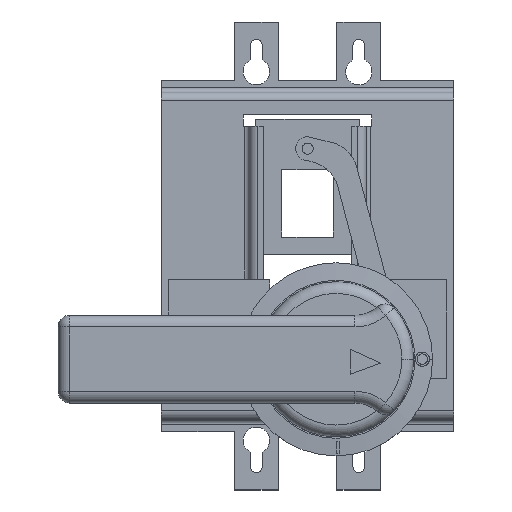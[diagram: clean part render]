
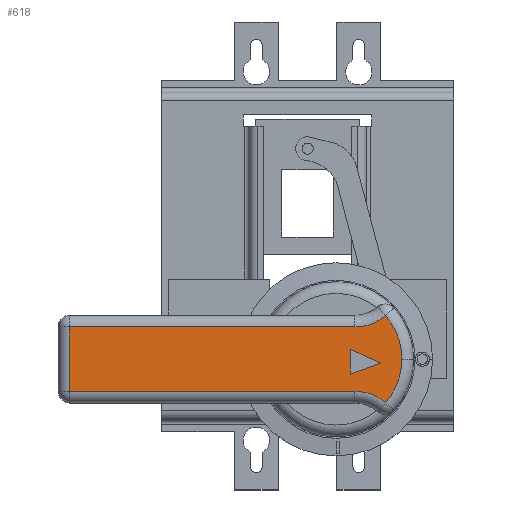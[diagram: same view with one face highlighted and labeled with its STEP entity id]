
A CAD part, top view. The second image highlights one B-rep face of the part: STEP entity #618.
In plain terms, the highlighted planar face has unit normal (0, 0, 1).
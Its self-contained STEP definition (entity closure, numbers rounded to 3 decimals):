
#58 = DIRECTION ( 'NONE',  ( 0., 0., -1. ) ) ;
#201 = LINE ( 'NONE', #5107, #4218 ) ;
#240 = DIRECTION ( 'NONE',  ( 0., 0., 1. ) ) ;
#291 = VERTEX_POINT ( 'NONE', #2031 ) ;
#354 = CIRCLE ( 'NONE', #3498, 22.5 ) ;
#555 = LINE ( 'NONE', #4920, #6262 ) ;
#604 = FACE_BOUND ( 'NONE', #974, .T. ) ;
#618 = ADVANCED_FACE ( 'NONE', ( #3842, #604 ), #6740, .T. ) ;
#696 = CARTESIAN_POINT ( 'NONE',  ( -85.278, -24.597, 194. ) ) ;
#784 = CARTESIAN_POINT ( 'NONE',  ( 9.722, -35.597, 194. ) ) ;
#789 = EDGE_CURVE ( 'NONE', #5306, #291, #2967, .T. ) ;
#803 = VECTOR ( 'NONE', #2655, 1000. ) ;
#890 = CARTESIAN_POINT ( 'NONE',  ( 26.589, -50.489, 194. ) ) ;
#914 = VERTEX_POINT ( 'NONE', #1975 ) ;
#974 = EDGE_LOOP ( 'NONE', ( #4888, #7019, #5456 ) ) ;
#1087 = CARTESIAN_POINT ( 'NONE',  ( 16.179, -24.597, 194. ) ) ;
#1503 = ORIENTED_EDGE ( 'NONE', *, *, #6604, .T. ) ;
#1532 = CARTESIAN_POINT ( 'NONE',  ( 16.179, -46.597, 194. ) ) ;
#1705 = VERTEX_POINT ( 'NONE', #7685 ) ;
#1849 = DIRECTION ( 'NONE',  ( 1., 0., 0. ) ) ;
#1869 = CARTESIAN_POINT ( 'NONE',  ( 9.722, -35.597, 194. ) ) ;
#1975 = CARTESIAN_POINT ( 'NONE',  ( 14.51, -40.746, 194. ) ) ;
#2030 = VERTEX_POINT ( 'NONE', #1087 ) ;
#2031 = CARTESIAN_POINT ( 'NONE',  ( 14.51, -32.209, 194. ) ) ;
#2224 = EDGE_CURVE ( 'NONE', #2030, #3934, #2352, .T. ) ;
#2231 = LINE ( 'NONE', #5912, #5413 ) ;
#2304 = VERTEX_POINT ( 'NONE', #6363 ) ;
#2352 = LINE ( 'NONE', #696, #5736 ) ;
#2655 = DIRECTION ( 'NONE',  ( -0.908, 0.42, 0. ) ) ;
#2677 = DIRECTION ( 'NONE',  ( 0., -1., 0. ) ) ;
#2833 = DIRECTION ( 'NONE',  ( 1., 0., 0. ) ) ;
#2851 = EDGE_CURVE ( 'NONE', #5081, #6376, #5287, .T. ) ;
#2967 = LINE ( 'NONE', #5117, #803 ) ;
#3139 = DIRECTION ( 'NONE',  ( 0.938, 0.346, 0. ) ) ;
#3321 = EDGE_CURVE ( 'NONE', #1705, #2304, #354, .T. ) ;
#3356 = DIRECTION ( 'NONE',  ( 1., 0., 0. ) ) ;
#3412 = EDGE_CURVE ( 'NONE', #291, #914, #2231, .T. ) ;
#3498 = AXIS2_PLACEMENT_3D ( 'NONE', #784, #6999, #3356 ) ;
#3607 = CARTESIAN_POINT ( 'NONE',  ( 16.179, -62.469, 194. ) ) ;
#3842 = FACE_OUTER_BOUND ( 'NONE', #7454, .T. ) ;
#3934 = VERTEX_POINT ( 'NONE', #6985 ) ;
#4061 = DIRECTION ( 'NONE',  ( 0., -1., 0. ) ) ;
#4168 = LINE ( 'NONE', #5704, #5316 ) ;
#4186 = DIRECTION ( 'NONE',  ( 1., 0., 0. ) ) ;
#4218 = VECTOR ( 'NONE', #2677, 1000. ) ;
#4647 = CIRCLE ( 'NONE', #6801, 22.5 ) ;
#4722 = VERTEX_POINT ( 'NONE', #6640 ) ;
#4814 = ORIENTED_EDGE ( 'NONE', *, *, #3321, .T. ) ;
#4821 = DIRECTION ( 'NONE',  ( 0., 0., -1. ) ) ;
#4838 = EDGE_CURVE ( 'NONE', #2304, #2030, #5300, .T. ) ;
#4888 = ORIENTED_EDGE ( 'NONE', *, *, #789, .F. ) ;
#4920 = CARTESIAN_POINT ( 'NONE',  ( 14.51, -40.746, 194. ) ) ;
#4972 = DIRECTION ( 'NONE',  ( 1., 0., 0. ) ) ;
#5050 = DIRECTION ( 'NONE',  ( -1., 0., 0. ) ) ;
#5081 = VERTEX_POINT ( 'NONE', #1532 ) ;
#5107 = CARTESIAN_POINT ( 'NONE',  ( -81.278, -50.597, 194. ) ) ;
#5117 = CARTESIAN_POINT ( 'NONE',  ( 24.78, -36.96, 194. ) ) ;
#5287 = CIRCLE ( 'NONE', #6818, 15.871 ) ;
#5300 = CIRCLE ( 'NONE', #6989, 15.871 ) ;
#5306 = VERTEX_POINT ( 'NONE', #6062 ) ;
#5316 = VECTOR ( 'NONE', #6841, 1000. ) ;
#5413 = VECTOR ( 'NONE', #4061, 1000. ) ;
#5456 = ORIENTED_EDGE ( 'NONE', *, *, #3412, .F. ) ;
#5704 = CARTESIAN_POINT ( 'NONE',  ( 16.179, -46.597, 194. ) ) ;
#5736 = VECTOR ( 'NONE', #5050, 1000. ) ;
#5832 = ORIENTED_EDGE ( 'NONE', *, *, #2851, .T. ) ;
#5912 = CARTESIAN_POINT ( 'NONE',  ( 14.51, -32.209, 194. ) ) ;
#6062 = CARTESIAN_POINT ( 'NONE',  ( 24.78, -36.96, 194. ) ) ;
#6225 = DIRECTION ( 'NONE',  ( 0., 0., 1. ) ) ;
#6262 = VECTOR ( 'NONE', #3139, 1000. ) ;
#6313 = EDGE_CURVE ( 'NONE', #6376, #1705, #4647, .T. ) ;
#6363 = CARTESIAN_POINT ( 'NONE',  ( 26.589, -20.706, 194. ) ) ;
#6376 = VERTEX_POINT ( 'NONE', #890 ) ;
#6394 = CARTESIAN_POINT ( 'NONE',  ( 9.722, -35.597, 194. ) ) ;
#6561 = ORIENTED_EDGE ( 'NONE', *, *, #6313, .T. ) ;
#6604 = EDGE_CURVE ( 'NONE', #4722, #5081, #4168, .T. ) ;
#6640 = CARTESIAN_POINT ( 'NONE',  ( -81.278, -46.597, 194. ) ) ;
#6740 = PLANE ( 'NONE',  #6765 ) ;
#6765 = AXIS2_PLACEMENT_3D ( 'NONE', #1869, #6225, #1849 ) ;
#6801 = AXIS2_PLACEMENT_3D ( 'NONE', #6394, #240, #2833 ) ;
#6806 = CARTESIAN_POINT ( 'NONE',  ( 16.179, -8.726, 194. ) ) ;
#6814 = ORIENTED_EDGE ( 'NONE', *, *, #2224, .T. ) ;
#6818 = AXIS2_PLACEMENT_3D ( 'NONE', #3607, #4821, #4186 ) ;
#6841 = DIRECTION ( 'NONE',  ( 1., 0., 0. ) ) ;
#6985 = CARTESIAN_POINT ( 'NONE',  ( -81.278, -24.597, 194. ) ) ;
#6989 = AXIS2_PLACEMENT_3D ( 'NONE', #6806, #58, #4972 ) ;
#6999 = DIRECTION ( 'NONE',  ( 0., 0., 1. ) ) ;
#7016 = EDGE_CURVE ( 'NONE', #914, #5306, #555, .T. ) ;
#7019 = ORIENTED_EDGE ( 'NONE', *, *, #7016, .F. ) ;
#7230 = EDGE_CURVE ( 'NONE', #3934, #4722, #201, .T. ) ;
#7376 = ORIENTED_EDGE ( 'NONE', *, *, #7230, .T. ) ;
#7454 = EDGE_LOOP ( 'NONE', ( #6814, #7376, #1503, #5832, #6561, #4814, #7561 ) ) ;
#7561 = ORIENTED_EDGE ( 'NONE', *, *, #4838, .T. ) ;
#7685 = CARTESIAN_POINT ( 'NONE',  ( 32.222, -35.597, 194. ) ) ;
